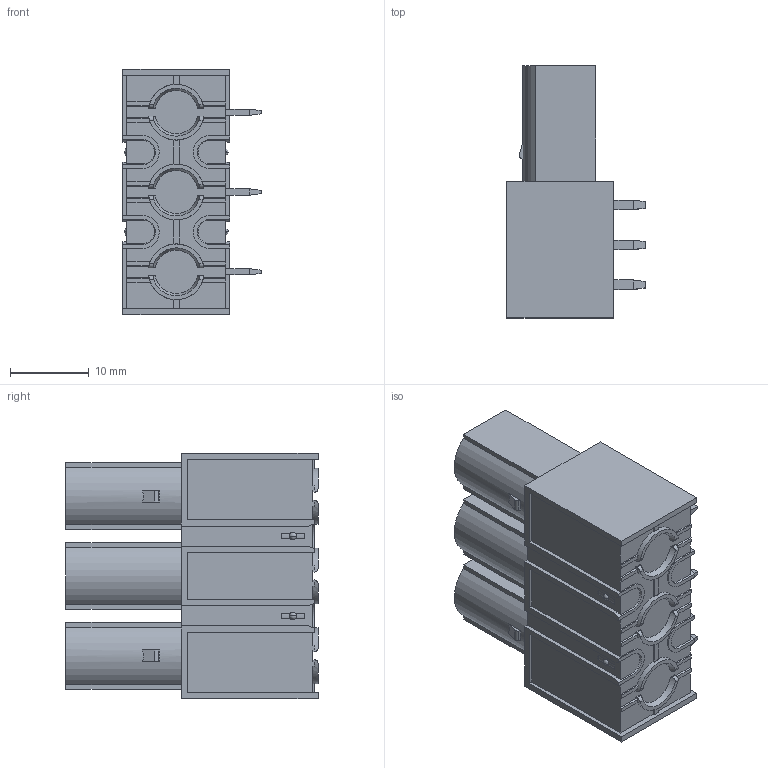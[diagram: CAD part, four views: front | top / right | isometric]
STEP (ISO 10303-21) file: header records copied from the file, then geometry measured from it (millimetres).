
FILE_DESCRIPTION((''),'2;1');
FILE_NAME('3PIN_SW0001','2019-06-06T',('zhenbing.lai'),(''),'CREO PARAMETRIC BY PTC INC, 2016260','CREO PARAMETRIC BY PTC INC, 2016260','');
FILE_SCHEMA(('CONFIG_CONTROL_DESIGN'));
Length unit declared in the file: millimetre
Products named in the file (1): 3PIN_SW0001
Bounding box: 17.6 x 32.1 x 31.28 mm (x, y, z)
Volume: 9661.9 mm3; surface area: 4484.6 mm2
Topology: 1 solids, 1 shells, 375 faces, 1069 edges, 709 vertices
Faces by surface type: plane 280, cylinder 62, cone 19, sphere 8, bspline 6
Entity records: 12675 total; most frequent: CARTESIAN_POINT 2933, ORIENTED_EDGE 2122, DIRECTION 1891, EDGE_CURVE 1061, VECTOR 741, LINE 741, VERTEX_POINT 709, AXIS2_PLACEMENT_3D 575
